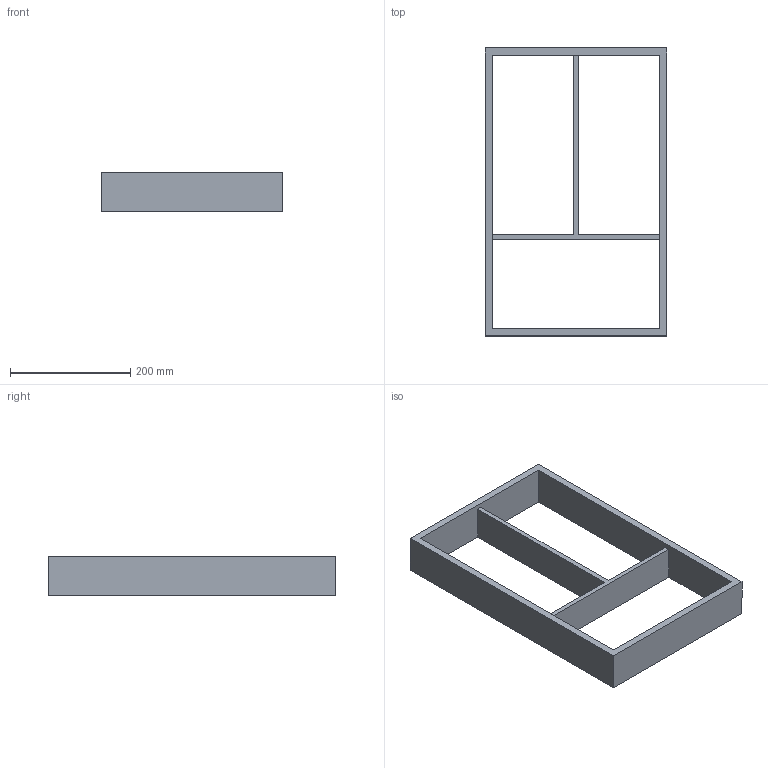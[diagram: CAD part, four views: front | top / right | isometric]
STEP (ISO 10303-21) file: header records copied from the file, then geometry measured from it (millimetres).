
FILE_DESCRIPTION (( 'STEP AP214' ), '1' );
FILE_NAME ('Vario Multi NL500_B400_19 mm_Alu.step', '2010-10-07T06:24:28', ( 'grass' ), ( '' ), 'SwSTEP 2.0', 'SolidWorks 2010', '' );
FILE_SCHEMA (( 'AUTOMOTIVE_DESIGN' ));
Length unit declared in the file: millimetre
Products named in the file (1): Vario Multi NL500_B400_19 mm_Alu
Bounding box: 302 x 479 x 65 mm (x, y, z)
Volume: 1443940.8 mm3; surface area: 306316 mm2
Topology: 1 solids, 1 shells, 16 faces, 48 edges, 32 vertices
Faces by surface type: plane 16
Entity records: 578 total; most frequent: CARTESIAN_POINT 97, ORIENTED_EDGE 96, DIRECTION 82, EDGE_CURVE 48, LINE 48, VECTOR 48, VERTEX_POINT 32, EDGE_LOOP 20
